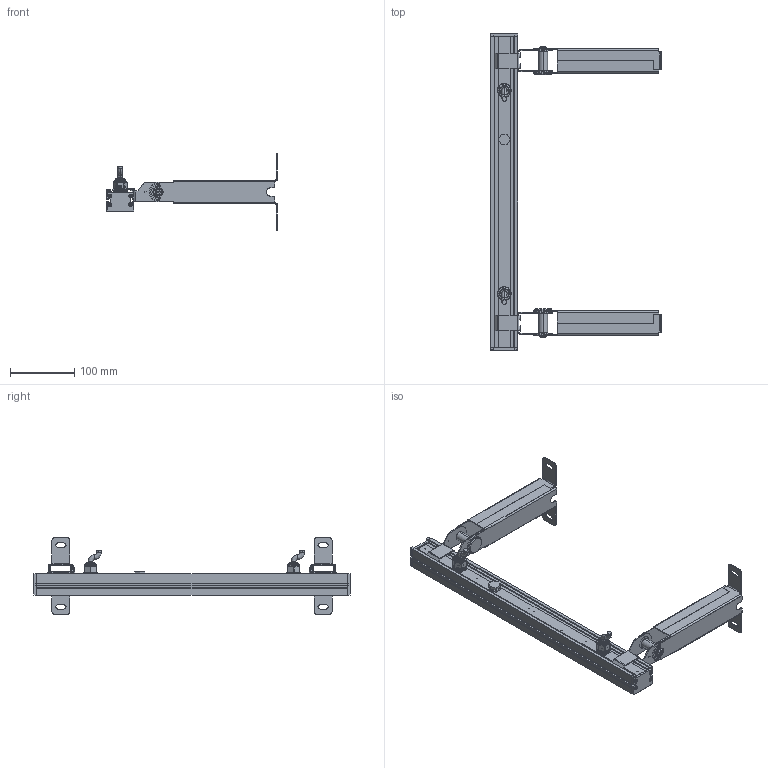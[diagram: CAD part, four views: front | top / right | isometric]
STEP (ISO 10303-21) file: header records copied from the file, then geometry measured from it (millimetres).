
FILE_DESCRIPTION((''),'2;1');
FILE_NAME('B6KE1257_ASM','2023-02-04T',('Administrator'),(''),'CREO PARAMETRIC BY PTC INC, 2015200','CREO PARAMETRIC BY PTC INC, 2015200','');
FILE_SCHEMA(('CONFIG_CONTROL_DESIGN'));
Products named in the file (27): 6KE; BLI-12_20_1_1; PG9_U___M; ___J3; ___J1; ___J2; PG9___1_ASM; PG_______Y___ASM; 6K-_3D_2017_1_6_; 6K_56_1; 6K_LJB_24PCS_5; 6R_TJZJ_5; 6K_LJB_ZJ_ASM_6_ASM; M3-22; PRODUCT_88784_ANY_1_1; M3X6-YT_2; 6L-A1; 6L-A2; 6K-Y; 6LK; ___S_OF__S__37____X__2___B6KA12; SOCKET_HEAD_CAP_SCREW_ISO_ISO_4; M4-6; 6L-A_ASM; 6K-Y1; 6L-B_ASM; B6KE1257_ASM
Assembly tree (51 placements, depth 4):
  B6KE1257_ASM
    6KE
    BLI-12_20_1_1
    PG_______Y___ASM  x2
      PG9_U___M
      PG9___1_ASM
        ___J3
        ___J1
        ___J2
        PG9_U___M
    6K-_3D_2017_1_6_  x2
    6K_56_1  x2
    6K_LJB_ZJ_ASM_6_ASM  x2
      6K_LJB_24PCS_5
      6R_TJZJ_5
    M3-22  x6
    PRODUCT_88784_ANY_1_1
    M3X6-YT_2  x8
    6L-A_ASM
      6L-A1
      6L-A2
      6K-Y
      6LK
      ___S_OF__S__37____X__2___B6KA12
      SOCKET_HEAD_CAP_SCREW_ISO_ISO_4
      M4-6  x2
    6L-B_ASM
      6L-A1
      6L-A2
      6K-Y1
      6LK
      SOCKET_HEAD_CAP_SCREW_ISO_ISO_4
      ___S_OF__S__37____X__2___B6KA12
      M4-6  x2
Bounding box: 266.25 x 494.64 x 120 mm (x, y, z)
Volume: 525999.6 mm3; surface area: 386653.4 mm2
Topology: 51 solids, 51 shells, 5110 faces, 13332 edges, 8642 vertices
Faces by surface type: plane 3358, cylinder 938, cone 450, extrusion 264, bspline 28, torus 24, sphere 24, revolution 24
Entity records: 87122 total; most frequent: CARTESIAN_POINT 25526, ORIENTED_EDGE 12884, DIRECTION 12008, EDGE_CURVE 6442, VECTOR 5170, LINE 5038, VERTEX_POINT 4249, AXIS2_PLACEMENT_3D 3413
